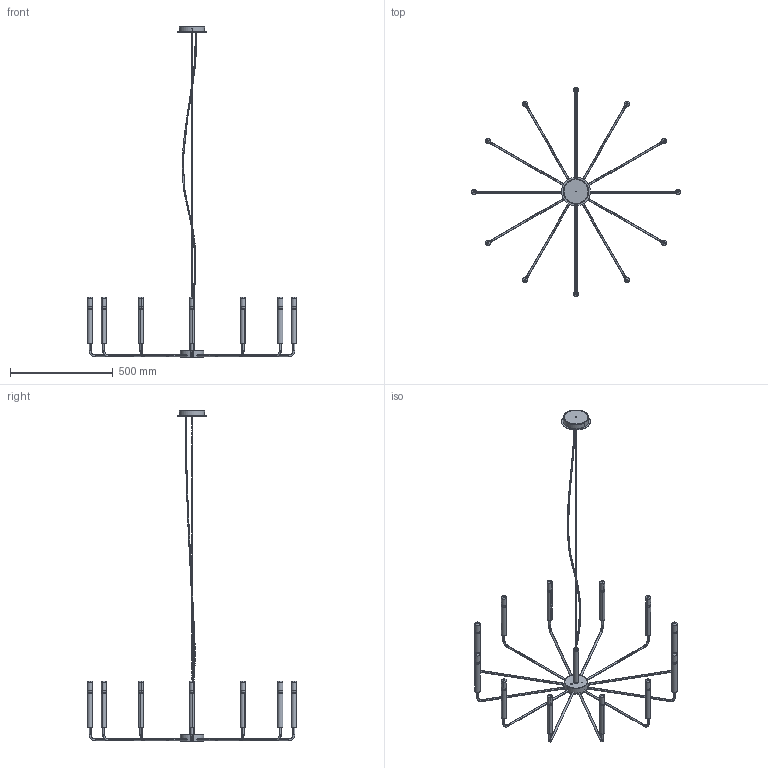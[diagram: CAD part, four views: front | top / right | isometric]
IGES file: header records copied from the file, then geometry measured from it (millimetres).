
Start section: SolidWorks IGES file using analytic representation for surfaces
Global section: file name: C:\Users\anna.bielnik\Desktop\ORTO XII B\ORTO-XII-B-11464-11465\ORTO XII B pm.IGS; native system: SolidWorks 2023; preprocessor: SolidWorks 2023; author: anna.bielnik; date: 241114.145128; units: millimetre
Bounding box: 1015 x 1015 x 1607.5 mm (x, y, z)
Surface area: 911345.1 mm2 (no closed solid volume)
Topology: 0 solids, 0 shells, 442 faces, 7752 edges, 7752 vertices
Faces by surface type: revolution 236, bspline 206
